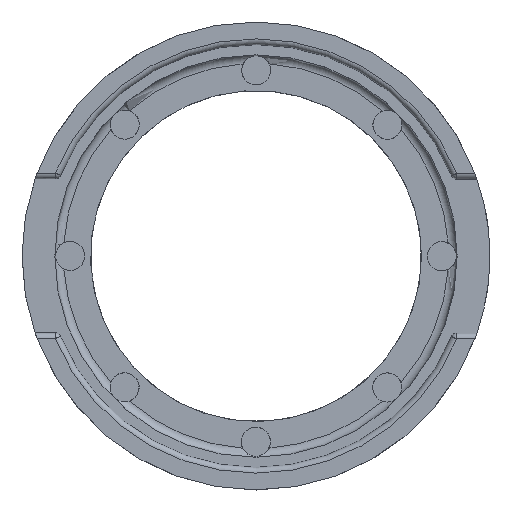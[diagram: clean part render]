
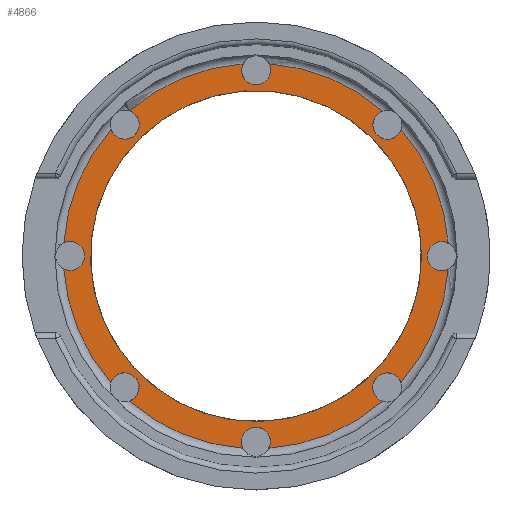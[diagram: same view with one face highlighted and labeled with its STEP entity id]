
A CAD part, top view. The second image highlights one B-rep face of the part: STEP entity #4866.
In plain terms, the highlighted planar face has unit normal (0, 0, 1).
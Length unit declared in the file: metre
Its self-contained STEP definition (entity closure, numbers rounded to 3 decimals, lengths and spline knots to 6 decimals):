
#662=CIRCLE('',#5260,0.03375);
#663=CIRCLE('',#5261,0.00255);
#664=CIRCLE('',#5262,0.03375);
#665=CIRCLE('',#5263,0.00255);
#666=CIRCLE('',#5264,0.03375);
#667=CIRCLE('',#5265,0.00255);
#668=CIRCLE('',#5266,0.03375);
#669=CIRCLE('',#5267,0.00255);
#670=CIRCLE('',#5268,0.03375);
#671=CIRCLE('',#5269,0.00255);
#672=CIRCLE('',#5270,0.03375);
#673=CIRCLE('',#5271,0.00255);
#674=CIRCLE('',#5272,0.03375);
#675=CIRCLE('',#5273,0.00255);
#676=CIRCLE('',#5274,0.03375);
#677=CIRCLE('',#5275,0.00255);
#678=CIRCLE('',#5276,0.029);
#1535=ORIENTED_EDGE('',*,*,#2837,.T.);
#1536=ORIENTED_EDGE('',*,*,#2838,.T.);
#1537=ORIENTED_EDGE('',*,*,#2839,.T.);
#1538=ORIENTED_EDGE('',*,*,#2840,.T.);
#1539=ORIENTED_EDGE('',*,*,#2841,.T.);
#1540=ORIENTED_EDGE('',*,*,#2842,.T.);
#1541=ORIENTED_EDGE('',*,*,#2843,.T.);
#1542=ORIENTED_EDGE('',*,*,#2844,.T.);
#1543=ORIENTED_EDGE('',*,*,#2845,.T.);
#1544=ORIENTED_EDGE('',*,*,#2846,.T.);
#1545=ORIENTED_EDGE('',*,*,#2847,.T.);
#1546=ORIENTED_EDGE('',*,*,#2848,.T.);
#1547=ORIENTED_EDGE('',*,*,#2849,.T.);
#1548=ORIENTED_EDGE('',*,*,#2850,.T.);
#1549=ORIENTED_EDGE('',*,*,#2851,.T.);
#1550=ORIENTED_EDGE('',*,*,#2852,.T.);
#1551=ORIENTED_EDGE('',*,*,#2853,.T.);
#2837=EDGE_CURVE('',#3407,#3408,#662,.F.);
#2838=EDGE_CURVE('',#3408,#3409,#663,.T.);
#2839=EDGE_CURVE('',#3409,#3410,#664,.F.);
#2840=EDGE_CURVE('',#3410,#3411,#665,.T.);
#2841=EDGE_CURVE('',#3411,#3412,#666,.F.);
#2842=EDGE_CURVE('',#3412,#3413,#667,.T.);
#2843=EDGE_CURVE('',#3413,#3414,#668,.F.);
#2844=EDGE_CURVE('',#3414,#3415,#669,.T.);
#2845=EDGE_CURVE('',#3415,#3416,#670,.F.);
#2846=EDGE_CURVE('',#3416,#3417,#671,.T.);
#2847=EDGE_CURVE('',#3417,#3418,#672,.F.);
#2848=EDGE_CURVE('',#3418,#3419,#673,.T.);
#2849=EDGE_CURVE('',#3419,#3420,#674,.F.);
#2850=EDGE_CURVE('',#3420,#3421,#675,.T.);
#2851=EDGE_CURVE('',#3421,#3422,#676,.F.);
#2852=EDGE_CURVE('',#3422,#3407,#677,.T.);
#2853=EDGE_CURVE('',#3423,#3423,#678,.T.);
#3407=VERTEX_POINT('',#11993);
#3408=VERTEX_POINT('',#11994);
#3409=VERTEX_POINT('',#11996);
#3410=VERTEX_POINT('',#11998);
#3411=VERTEX_POINT('',#12000);
#3412=VERTEX_POINT('',#12002);
#3413=VERTEX_POINT('',#12004);
#3414=VERTEX_POINT('',#12006);
#3415=VERTEX_POINT('',#12008);
#3416=VERTEX_POINT('',#12010);
#3417=VERTEX_POINT('',#12012);
#3418=VERTEX_POINT('',#12014);
#3419=VERTEX_POINT('',#12016);
#3420=VERTEX_POINT('',#12018);
#3421=VERTEX_POINT('',#12020);
#3422=VERTEX_POINT('',#12022);
#3423=VERTEX_POINT('',#12025);
#4054=EDGE_LOOP('',(#1535,#1536,#1537,#1538,#1539,#1540,#1541,#1542,#1543,
#1544,#1545,#1546,#1547,#1548,#1549,#1550));
#4055=EDGE_LOOP('',(#1551));
#4392=FACE_BOUND('',#4054,.T.);
#4393=FACE_BOUND('',#4055,.T.);
#4619=PLANE('',#5259);
#4866=ADVANCED_FACE('',(#4392,#4393),#4619,.F.);
#5259=AXIS2_PLACEMENT_3D('',#11991,#5887,#5888);
#5260=AXIS2_PLACEMENT_3D('',#11992,#5889,#5890);
#5261=AXIS2_PLACEMENT_3D('',#11995,#5891,#5892);
#5262=AXIS2_PLACEMENT_3D('',#11997,#5893,#5894);
#5263=AXIS2_PLACEMENT_3D('',#11999,#5895,#5896);
#5264=AXIS2_PLACEMENT_3D('',#12001,#5897,#5898);
#5265=AXIS2_PLACEMENT_3D('',#12003,#5899,#5900);
#5266=AXIS2_PLACEMENT_3D('',#12005,#5901,#5902);
#5267=AXIS2_PLACEMENT_3D('',#12007,#5903,#5904);
#5268=AXIS2_PLACEMENT_3D('',#12009,#5905,#5906);
#5269=AXIS2_PLACEMENT_3D('',#12011,#5907,#5908);
#5270=AXIS2_PLACEMENT_3D('',#12013,#5909,#5910);
#5271=AXIS2_PLACEMENT_3D('',#12015,#5911,#5912);
#5272=AXIS2_PLACEMENT_3D('',#12017,#5913,#5914);
#5273=AXIS2_PLACEMENT_3D('',#12019,#5915,#5916);
#5274=AXIS2_PLACEMENT_3D('',#12021,#5917,#5918);
#5275=AXIS2_PLACEMENT_3D('',#12023,#5919,#5920);
#5276=AXIS2_PLACEMENT_3D('',#12024,#5921,#5922);
#5887=DIRECTION('',(0.,0.,-1.));
#5888=DIRECTION('',(0.819,0.574,0.));
#5889=DIRECTION('',(0.,0.,-1.));
#5890=DIRECTION('',(1.,0.,0.));
#5891=DIRECTION('',(0.,0.,-1.));
#5892=DIRECTION('',(1.,0.,0.));
#5893=DIRECTION('',(0.,0.,-1.));
#5894=DIRECTION('',(1.,0.,0.));
#5895=DIRECTION('',(0.,0.,-1.));
#5896=DIRECTION('',(1.,0.,0.));
#5897=DIRECTION('',(0.,0.,-1.));
#5898=DIRECTION('',(1.,0.,0.));
#5899=DIRECTION('',(0.,0.,-1.));
#5900=DIRECTION('',(1.,0.,0.));
#5901=DIRECTION('',(0.,0.,-1.));
#5902=DIRECTION('',(1.,0.,0.));
#5903=DIRECTION('',(0.,0.,-1.));
#5904=DIRECTION('',(1.,0.,0.));
#5905=DIRECTION('',(0.,0.,-1.));
#5906=DIRECTION('',(1.,0.,0.));
#5907=DIRECTION('',(0.,0.,-1.));
#5908=DIRECTION('',(1.,0.,0.));
#5909=DIRECTION('',(0.,0.,-1.));
#5910=DIRECTION('',(1.,0.,0.));
#5911=DIRECTION('',(0.,0.,-1.));
#5912=DIRECTION('',(1.,0.,0.));
#5913=DIRECTION('',(0.,0.,-1.));
#5914=DIRECTION('',(1.,0.,0.));
#5915=DIRECTION('',(0.,0.,-1.));
#5916=DIRECTION('',(1.,0.,0.));
#5917=DIRECTION('',(0.,0.,-1.));
#5918=DIRECTION('',(1.,0.,0.));
#5919=DIRECTION('',(0.,0.,-1.));
#5920=DIRECTION('',(1.,0.,0.));
#5921=DIRECTION('',(0.,0.,-1.));
#5922=DIRECTION('',(1.,0.,0.));
#11991=CARTESIAN_POINT('',(0.,0.,0.0728));
#11992=CARTESIAN_POINT('',(0.,0.,0.0728));
#11993=CARTESIAN_POINT('',(-0.025412,0.02221,0.0728));
#11994=CARTESIAN_POINT('',(-0.033671,0.002315,0.0728));
#11995=CARTESIAN_POINT('',(-0.03255,0.000024,0.0728));
#11996=CARTESIAN_POINT('',(-0.033674,-0.002265,0.0728));
#11997=CARTESIAN_POINT('',(0.,0.,0.0728));
#11998=CARTESIAN_POINT('',(-0.025446,-0.022172,0.0728));
#11999=CARTESIAN_POINT('',(-0.023034,-0.022999,0.0728));
#12000=CARTESIAN_POINT('',(-0.02221,-0.025412,0.0728));
#12001=CARTESIAN_POINT('',(0.,0.,0.0728));
#12002=CARTESIAN_POINT('',(-0.002315,-0.033671,0.0728));
#12003=CARTESIAN_POINT('',(-0.000024,-0.03255,0.0728));
#12004=CARTESIAN_POINT('',(0.002265,-0.033674,0.0728));
#12005=CARTESIAN_POINT('',(0.,0.,0.0728));
#12006=CARTESIAN_POINT('',(0.022172,-0.025446,0.0728));
#12007=CARTESIAN_POINT('',(0.022999,-0.023034,0.0728));
#12008=CARTESIAN_POINT('',(0.025412,-0.02221,0.0728));
#12009=CARTESIAN_POINT('',(0.,0.,0.0728));
#12010=CARTESIAN_POINT('',(0.033671,-0.002315,0.0728));
#12011=CARTESIAN_POINT('',(0.03255,-0.000024,0.0728));
#12012=CARTESIAN_POINT('',(0.033674,0.002265,0.0728));
#12013=CARTESIAN_POINT('',(0.,0.,0.0728));
#12014=CARTESIAN_POINT('',(0.025446,0.022172,0.0728));
#12015=CARTESIAN_POINT('',(0.023034,0.022999,0.0728));
#12016=CARTESIAN_POINT('',(0.02221,0.025412,0.0728));
#12017=CARTESIAN_POINT('',(0.,0.,0.0728));
#12018=CARTESIAN_POINT('',(0.002315,0.033671,0.0728));
#12019=CARTESIAN_POINT('',(0.000024,0.03255,0.0728));
#12020=CARTESIAN_POINT('',(-0.002265,0.033674,0.0728));
#12021=CARTESIAN_POINT('',(0.,0.,0.0728));
#12022=CARTESIAN_POINT('',(-0.022172,0.025446,0.0728));
#12023=CARTESIAN_POINT('',(-0.022999,0.023034,0.0728));
#12024=CARTESIAN_POINT('',(0.,0.,0.0728));
#12025=CARTESIAN_POINT('',(0.029,0.,0.0728));
